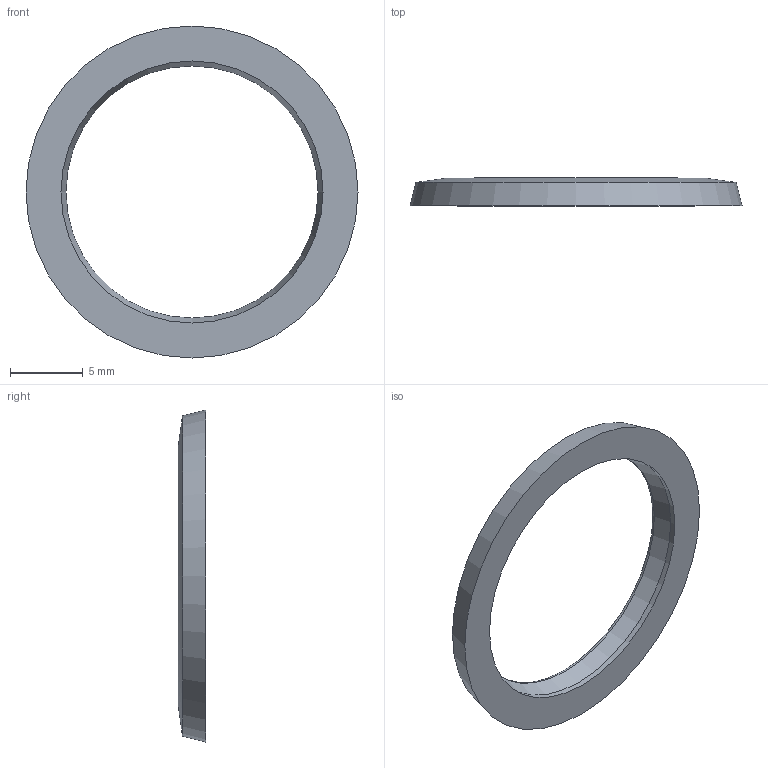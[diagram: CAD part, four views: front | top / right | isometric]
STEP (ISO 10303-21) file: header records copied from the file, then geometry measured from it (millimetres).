
FILE_DESCRIPTION( ( 'STEP AP203' ), '1' );
FILE_NAME( 'C:/Temp/Ganter_Step_05_03_2020/data/3_5/gn7600/Sealing ring GN 7600-22-18-2-HNBR-85.stp', '2020-03-12T13:43:51', ( 'License CC BY-ND 4.0' ), ( 'CADENAS' ), ' ', 'PARTsolutions', ' ' );
FILE_SCHEMA( ( 'CONFIG_CONTROL_DESIGN' ) );
Length unit declared in the file: millimetre
Products named in the file (1): _Sealing ring GN 7600-22-18-2-HNBR-85
Bounding box: 22.8 x 1.9 x 22.8 mm (x, y, z)
Volume: 256.5 mm3; surface area: 519.2 mm2
Topology: 1 solids, 1 shells, 6 faces, 11 edges, 6 vertices
Faces by surface type: cone 3, torus 1, cylinder 1, plane 1
Full cylindrical faces by diameter (mm): 18 x1
Entity records: 172 total; most frequent: DIRECTION 26, CARTESIAN_POINT 19, AXIS2_PLACEMENT_3D 13, EDGE_LOOP 12, ORIENTED_EDGE 12, FACE_OUTER_BOUND 8, ADVANCED_FACE 6, EDGE_CURVE 6
